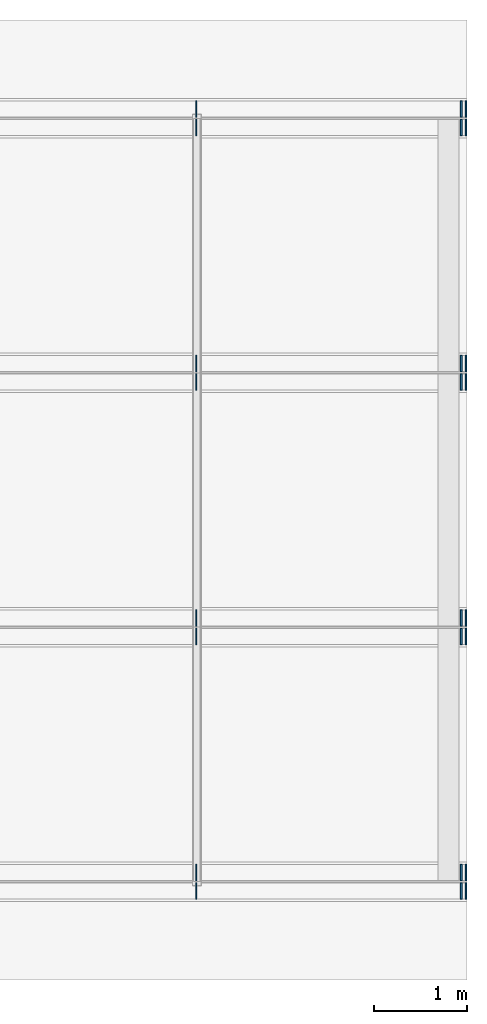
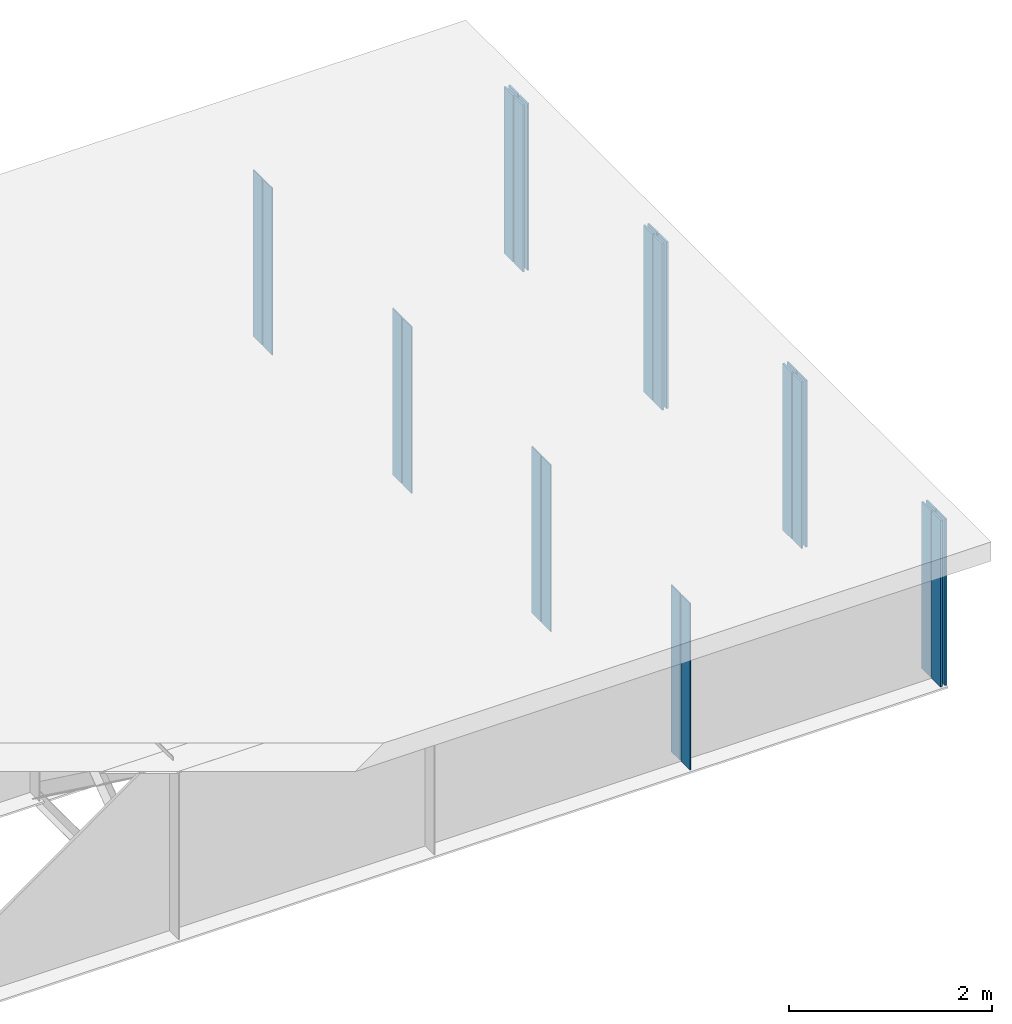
# One storey, part 13 of 13: 24 plates.
"""IFC4 building model written with IfcOpenShell, lengths in metres."""

from ifc_helpers import new_model, si_unit, frame, origin, origin_with_axes, origin_2d_with_axis, place, context, subcontext, project, spatial, rectangle, extrude, element, save


model = new_model("IFC4")

# Units and contexts
model_context = context("Model", 3, precision=1e-05, world=origin())
body_context = subcontext(model_context, "Body", "Model", "MODEL_VIEW")
ifc_project = project(units=[si_unit("LENGTHUNIT", "METRE"), si_unit("AREAUNIT", "SQUARE_METRE"), si_unit("VOLUMEUNIT", "CUBIC_METRE"), si_unit("PLANEANGLEUNIT", "RADIAN")], contexts=[model_context])

# Site, building, storey
site_placement = place(None, origin_with_axes())
site = spatial("IfcSite", under=ifc_project, at=site_placement, Name="Default Site")
building_placement = place(site_placement, origin_with_axes())
building = spatial("IfcBuilding", under=site, at=building_placement, Name="Bridge Structure")
storey_placement = place(building_placement, origin_with_axes())
storey = spatial("IfcBuildingStorey", under=building, at=storey_placement, Name="Superstructure")

# Plates
for number, where, z_axis, x_axis, name in (
    (1, (32.076, -4.02675, -1.005), (0.0, 0.0, 1.0), (1.0, 0.0, 0.0), "Intermediate Stiffener 1"),
    (2, (32.076, -4.22325, -1.005), (0.0, 0.0, 1.0), (1.0, 0.0, 0.0), "Intermediate Stiffener 1"),
):
    element("IfcPlate", number, at=place(storey_placement, frame(where, z_axis=z_axis, x_axis=x_axis)), inside=storey, Name=name, context=body_context, shape_type="SweptSolid", body=[
        extrude(rectangle(XDim=0.012, YDim=0.1785, at=origin_2d_with_axis()), origin_with_axes(), (0.0, 0.0, 1.0), 2.01),
    ])
for number, where, z_axis, x_axis, name in (
    (3, (34.99, -4.02675, -1.005), (0.0, 0.0, 1.0), (1.0, 0.0, 0.0), "End Stiffener 1"),
    (4, (34.99, -4.22325, -1.005), (0.0, 0.0, 1.0), (1.0, 0.0, 0.0), "End Stiffener 1"),
    (5, (34.94, -4.02675, -1.005), (0.0, 0.0, 1.0), (1.0, 0.0, 0.0), "End Stiffener 1"),
    (6, (34.94, -4.22325, -1.005), (0.0, 0.0, 1.0), (1.0, 0.0, 0.0), "End Stiffener 1"),
):
    element("IfcPlate", number, at=place(storey_placement, frame(where, z_axis=z_axis, x_axis=x_axis)), inside=storey, Name=name, context=body_context, shape_type="SweptSolid", body=[
        extrude(rectangle(XDim=0.02, YDim=0.1785, at=origin_2d_with_axis()), origin_with_axes(), (0.0, 0.0, 1.0), 2.01),
    ])
for number, where, z_axis, x_axis, name in (
    (7, (32.076, -1.27675, -1.005), (0.0, 0.0, 1.0), (1.0, 0.0, 0.0), "Intermediate Stiffener 2"),
    (8, (32.076, -1.47325, -1.005), (0.0, 0.0, 1.0), (1.0, 0.0, 0.0), "Intermediate Stiffener 2"),
):
    element("IfcPlate", number, at=place(storey_placement, frame(where, z_axis=z_axis, x_axis=x_axis)), inside=storey, Name=name, context=body_context, shape_type="SweptSolid", body=[
        extrude(rectangle(XDim=0.012, YDim=0.1785, at=origin_2d_with_axis()), origin_with_axes(), (0.0, 0.0, 1.0), 2.01),
    ])
for number, where, z_axis, x_axis, name in (
    (9, (34.99, -1.27675, -1.005), (0.0, 0.0, 1.0), (1.0, 0.0, 0.0), "End Stiffener 2"),
    (10, (34.99, -1.47325, -1.005), (0.0, 0.0, 1.0), (1.0, 0.0, 0.0), "End Stiffener 2"),
    (11, (34.94, -1.27675, -1.005), (0.0, 0.0, 1.0), (1.0, 0.0, 0.0), "End Stiffener 2"),
    (12, (34.94, -1.47325, -1.005), (0.0, 0.0, 1.0), (1.0, 0.0, 0.0), "End Stiffener 2"),
):
    element("IfcPlate", number, at=place(storey_placement, frame(where, z_axis=z_axis, x_axis=x_axis)), inside=storey, Name=name, context=body_context, shape_type="SweptSolid", body=[
        extrude(rectangle(XDim=0.02, YDim=0.1785, at=origin_2d_with_axis()), origin_with_axes(), (0.0, 0.0, 1.0), 2.01),
    ])
for number, where, z_axis, x_axis, name in (
    (13, (32.076, 1.47325, -1.005), (0.0, 0.0, 1.0), (1.0, 0.0, 0.0), "Intermediate Stiffener 3"),
    (14, (32.076, 1.27675, -1.005), (0.0, 0.0, 1.0), (1.0, 0.0, 0.0), "Intermediate Stiffener 3"),
):
    element("IfcPlate", number, at=place(storey_placement, frame(where, z_axis=z_axis, x_axis=x_axis)), inside=storey, Name=name, context=body_context, shape_type="SweptSolid", body=[
        extrude(rectangle(XDim=0.012, YDim=0.1785, at=origin_2d_with_axis()), origin_with_axes(), (0.0, 0.0, 1.0), 2.01),
    ])
for number, where, z_axis, x_axis, name in (
    (15, (34.99, 1.47325, -1.005), (0.0, 0.0, 1.0), (1.0, 0.0, 0.0), "End Stiffener 3"),
    (16, (34.99, 1.27675, -1.005), (0.0, 0.0, 1.0), (1.0, 0.0, 0.0), "End Stiffener 3"),
    (17, (34.94, 1.47325, -1.005), (0.0, 0.0, 1.0), (1.0, 0.0, 0.0), "End Stiffener 3"),
    (18, (34.94, 1.27675, -1.005), (0.0, 0.0, 1.0), (1.0, 0.0, 0.0), "End Stiffener 3"),
):
    element("IfcPlate", number, at=place(storey_placement, frame(where, z_axis=z_axis, x_axis=x_axis)), inside=storey, Name=name, context=body_context, shape_type="SweptSolid", body=[
        extrude(rectangle(XDim=0.02, YDim=0.1785, at=origin_2d_with_axis()), origin_with_axes(), (0.0, 0.0, 1.0), 2.01),
    ])
for number, where, z_axis, x_axis, name in (
    (19, (32.076, 4.22325, -1.005), (0.0, 0.0, 1.0), (1.0, 0.0, 0.0), "Intermediate Stiffener 4"),
    (20, (32.076, 4.02675, -1.005), (0.0, 0.0, 1.0), (1.0, 0.0, 0.0), "Intermediate Stiffener 4"),
):
    element("IfcPlate", number, at=place(storey_placement, frame(where, z_axis=z_axis, x_axis=x_axis)), inside=storey, Name=name, context=body_context, shape_type="SweptSolid", body=[
        extrude(rectangle(XDim=0.012, YDim=0.1785, at=origin_2d_with_axis()), origin_with_axes(), (0.0, 0.0, 1.0), 2.01),
    ])
for number, where, z_axis, x_axis, name in (
    (21, (34.99, 4.22325, -1.005), (0.0, 0.0, 1.0), (1.0, 0.0, 0.0), "End Stiffener 4"),
    (22, (34.99, 4.02675, -1.005), (0.0, 0.0, 1.0), (1.0, 0.0, 0.0), "End Stiffener 4"),
    (23, (34.94, 4.22325, -1.005), (0.0, 0.0, 1.0), (1.0, 0.0, 0.0), "End Stiffener 4"),
    (24, (34.94, 4.02675, -1.005), (0.0, 0.0, 1.0), (1.0, 0.0, 0.0), "End Stiffener 4"),
):
    element("IfcPlate", number, at=place(storey_placement, frame(where, z_axis=z_axis, x_axis=x_axis)), inside=storey, Name=name, context=body_context, shape_type="SweptSolid", body=[
        extrude(rectangle(XDim=0.02, YDim=0.1785, at=origin_2d_with_axis()), origin_with_axes(), (0.0, 0.0, 1.0), 2.01),
    ])

save(model, "model.ifc")
